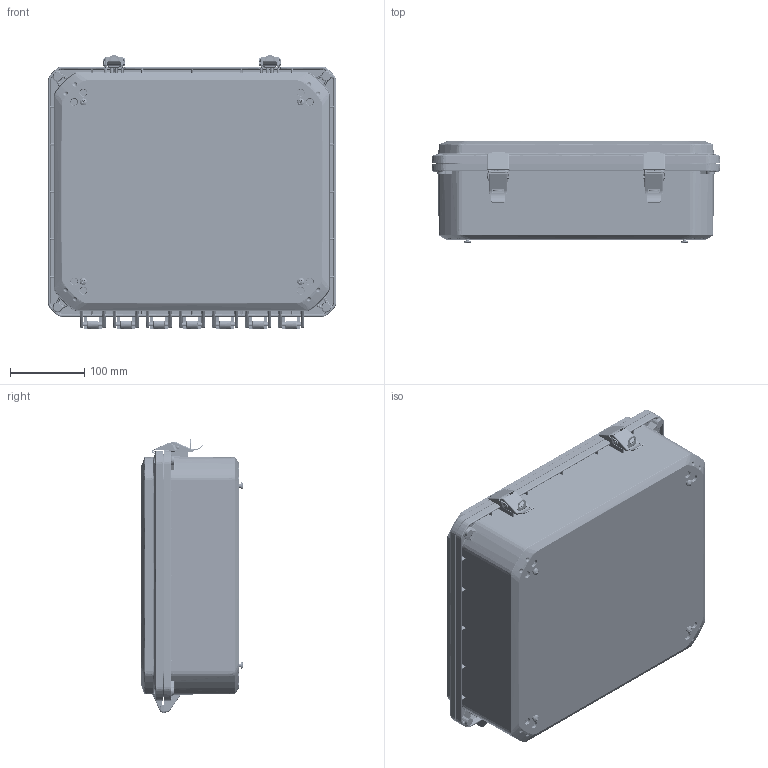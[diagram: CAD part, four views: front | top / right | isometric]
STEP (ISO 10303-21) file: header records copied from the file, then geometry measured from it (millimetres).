
FILE_DESCRIPTION (( 'STEP AP214' ), '1' );
FILE_NAME ('ZH-141204-92.STEP', '2024-10-25T19:38:12', ( '' ), ( '' ), 'SwSTEP 2.0', 'SolidWorks 2024', '' );
FILE_SCHEMA (( 'AUTOMOTIVE_DESIGN' ));
Length unit declared in the file: inch
Products named in the file (16): ZH-01L4; ZH-95P_DEFAULT; Z_-14121C_ZH-14121C-02; ZH-01L5; ZH-01L1; ZH-141204-92; ZH-1412G; Z_-14124B_ZH-14124B-01; SCREWS-049_SCREWS-049; ZH-01L; Z_-14124BI_ZH-14124BI-01; ZH-01L3; LABEL-104; ZH-01L2; Z_-14121CG_ZH-14121CG-02; INSERTS-4
Assembly tree (33 placements, depth 3):
  ZH-141204-92
    Z_-14124BI_ZH-14124BI-01
      Z_-14124B_ZH-14124B-01
      INSERTS-4  x12
      LABEL-104
    Z_-14121CG_ZH-14121CG-02
      Z_-14121C_ZH-14121C-02
      ZH-1412G
    ZH-95P_DEFAULT  x4
    ZH-01L  x2
      ZH-01L1
      ZH-01L2
      ZH-01L3
      ZH-01L4
      ZH-01L5
    SCREWS-049_SCREWS-049  x4
Bounding box: 387.1 x 137.95 x 368.26 mm (x, y, z)
Volume: 2094790 mm3; surface area: 1002282.8 mm2
Topology: 38 solids, 38 shells, 7933 faces, 19419 edges, 11468 vertices
Faces by surface type: bspline 2539, plane 1840, cylinder 1758, torus 860, cone 856, sphere 80
Entity records: 280896 total; most frequent: CARTESIAN_POINT 154732, ORIENTED_EDGE 29434, DIRECTION 22895, EDGE_CURVE 14717, AXIS2_PLACEMENT_3D 9347, VERTEX_POINT 8627, EDGE_LOOP 6412, FACE_OUTER_BOUND 6233
